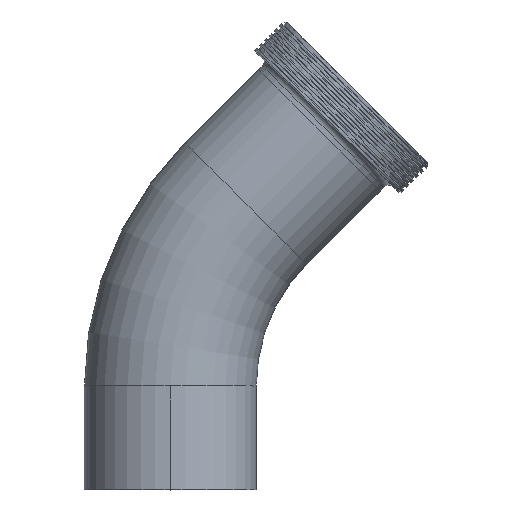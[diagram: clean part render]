
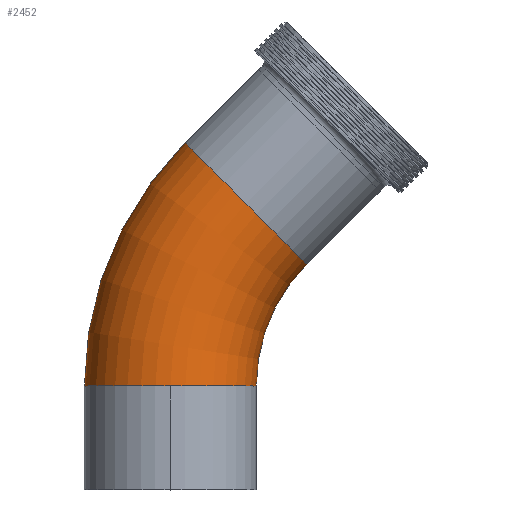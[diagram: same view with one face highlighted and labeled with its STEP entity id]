
A CAD part, top view. The second image highlights one B-rep face of the part: STEP entity #2452.
In plain terms, the highlighted toroidal (fillet/blend) face has major radius 114.3 mm and minor radius 38.1 mm.
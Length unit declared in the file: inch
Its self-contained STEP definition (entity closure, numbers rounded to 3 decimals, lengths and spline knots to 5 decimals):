
#133 = AXIS2_PLACEMENT_3D ( 'NONE', #3878, #1724, #4237 ) ;
#254 = AXIS2_PLACEMENT_3D ( 'NONE', #592, #3095, #940 ) ;
#516 = DIRECTION ( 'NONE',  ( 0.707, 0.707, 0. ) ) ;
#592 = CARTESIAN_POINT ( 'NONE',  ( 0., 1.812, 0. ) ) ;
#848 = CARTESIAN_POINT ( 'NONE',  ( 4.5, 1.812, 0. ) ) ;
#886 = CIRCLE ( 'NONE', #254, 1.5 ) ;
#890 = ORIENTED_EDGE ( 'NONE', *, *, #4096, .T. ) ;
#940 = DIRECTION ( 'NONE',  ( -1., 0., 0. ) ) ;
#980 = CARTESIAN_POINT ( 'NONE',  ( 1.5, 1.812, 0. ) ) ;
#1016 = VERTEX_POINT ( 'NONE', #3206 ) ;
#1020 = ORIENTED_EDGE ( 'NONE', *, *, #4391, .F. ) ;
#1202 = DIRECTION ( 'NONE',  ( 1., 0., 0. ) ) ;
#1371 = DIRECTION ( 'NONE',  ( 0., 1., 0. ) ) ;
#1467 = VERTEX_POINT ( 'NONE', #4378 ) ;
#1702 = CARTESIAN_POINT ( 'NONE',  ( -1.5, 1.812, 0. ) ) ;
#1724 = DIRECTION ( 'NONE',  ( 0., 0., 1. ) ) ;
#1766 = CARTESIAN_POINT ( 'NONE',  ( 4.5, 1.812, 0. ) ) ;
#2074 = ORIENTED_EDGE ( 'NONE', *, *, #4206, .T. ) ;
#2104 = AXIS2_PLACEMENT_3D ( 'NONE', #1766, #4279, #4642 ) ;
#2106 = CIRCLE ( 'NONE', #3739, 1.5 ) ;
#2135 = VERTEX_POINT ( 'NONE', #1702 ) ;
#2307 = VERTEX_POINT ( 'NONE', #980 ) ;
#2452 = ADVANCED_FACE ( 'NONE', ( #4273 ), #3208, .T. ) ;
#2542 = ORIENTED_EDGE ( 'NONE', *, *, #4422, .F. ) ;
#2576 = CIRCLE ( 'NONE', #133, 6. ) ;
#2663 = CARTESIAN_POINT ( 'NONE',  ( 1.31802, 4.99398, 0. ) ) ;
#2802 = CIRCLE ( 'NONE', #4100, 1.5 ) ;
#3016 = DIRECTION ( 'NONE',  ( -0.707, 0.707, 0. ) ) ;
#3095 = DIRECTION ( 'NONE',  ( 0., 1., 0. ) ) ;
#3183 = CIRCLE ( 'NONE', #4624, 3. ) ;
#3206 = CARTESIAN_POINT ( 'NONE',  ( 2.37868, 3.93332, 0. ) ) ;
#3208 = TOROIDAL_SURFACE ( 'NONE', #2104, 4.5, 1.5 ) ;
#3356 = DIRECTION ( 'NONE',  ( 0., 0., 1. ) ) ;
#3438 = EDGE_LOOP ( 'NONE', ( #2542, #2074, #890, #4466, #1020 ) ) ;
#3531 = CARTESIAN_POINT ( 'NONE',  ( 0., 1.812, 0. ) ) ;
#3739 = AXIS2_PLACEMENT_3D ( 'NONE', #2663, #516, #3016 ) ;
#3878 = CARTESIAN_POINT ( 'NONE',  ( 4.5, 1.812, 0. ) ) ;
#3892 = DIRECTION ( 'NONE',  ( -1., 0., 0. ) ) ;
#4096 = EDGE_CURVE ( 'NONE', #2135, #4521, #886, .T. ) ;
#4100 = AXIS2_PLACEMENT_3D ( 'NONE', #3531, #1371, #3892 ) ;
#4108 = CARTESIAN_POINT ( 'NONE',  ( 0., 1.812, 1.5 ) ) ;
#4206 = EDGE_CURVE ( 'NONE', #1467, #2135, #2576, .T. ) ;
#4229 = EDGE_CURVE ( 'NONE', #4521, #2307, #2802, .T. ) ;
#4237 = DIRECTION ( 'NONE',  ( 1., 0., 0. ) ) ;
#4273 = FACE_OUTER_BOUND ( 'NONE', #3438, .T. ) ;
#4279 = DIRECTION ( 'NONE',  ( 0., 0., 1. ) ) ;
#4378 = CARTESIAN_POINT ( 'NONE',  ( 0.25736, 6.05464, 0. ) ) ;
#4391 = EDGE_CURVE ( 'NONE', #1016, #2307, #3183, .T. ) ;
#4422 = EDGE_CURVE ( 'NONE', #1467, #1016, #2106, .T. ) ;
#4466 = ORIENTED_EDGE ( 'NONE', *, *, #4229, .T. ) ;
#4521 = VERTEX_POINT ( 'NONE', #4108 ) ;
#4624 = AXIS2_PLACEMENT_3D ( 'NONE', #848, #3356, #1202 ) ;
#4642 = DIRECTION ( 'NONE',  ( 1., 0., 0. ) ) ;
